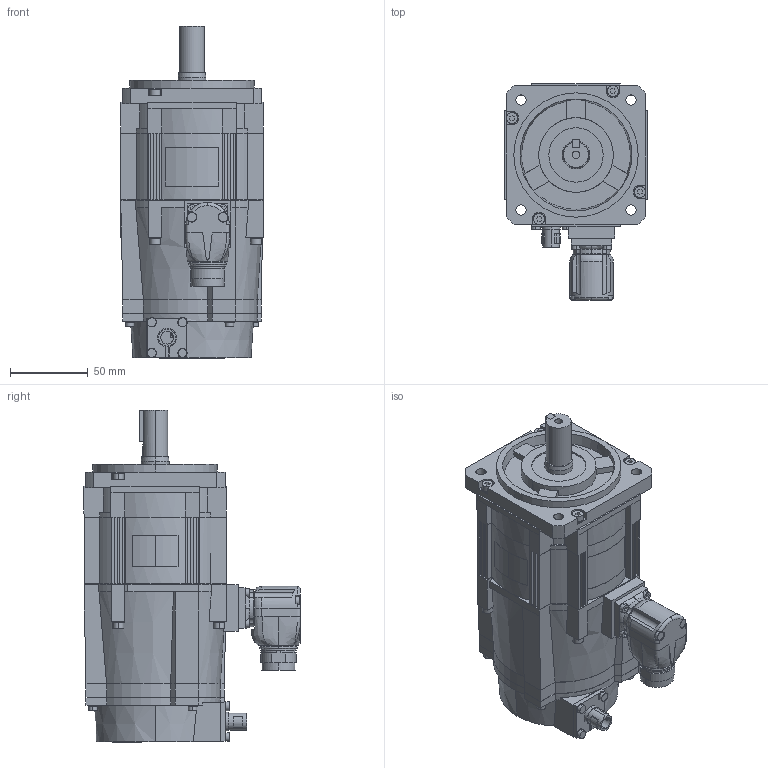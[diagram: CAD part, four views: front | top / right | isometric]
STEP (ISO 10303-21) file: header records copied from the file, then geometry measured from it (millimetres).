
FILE_DESCRIPTION (( 'STEP AP203' ), '1' );
FILE_NAME ('sgm7g_05d_f6h.STEP', '2016-03-16T07:48:41', ( '匠エンジニアリング山之内' ), ( 'TAKUMI-Engniaring' ), 'SwSTEP 2.0', 'SolidWorks 2006303', '' );
FILE_SCHEMA (( 'CONFIG_CONTROL_DESIGN' ));
Length unit declared in the file: millimetre
Products named in the file (4): sgm7g_05d_f6h_base; sgm7g_05d_f6h_key; sgm7g_05d_f6h; sgm7g_05d_f6h_connector
Assembly tree (3 placements, depth 2):
  sgm7g_05d_f6h
    sgm7g_05d_f6h_key
    sgm7g_05d_f6h_base
    sgm7g_05d_f6h_connector
Bounding box: 92 x 139.4 x 213.6 mm (x, y, z)
Volume: 1201067.2 mm3; surface area: 105450.9 mm2
Topology: 3 solids, 3 shells, 813 faces, 2078 edges, 1339 vertices
Faces by surface type: plane 546, cylinder 217, cone 21, bspline 20, torus 9
Entity records: 26209 total; most frequent: CARTESIAN_POINT 5905, ORIENTED_EDGE 4152, DIRECTION 4128, EDGE_CURVE 2076, AXIS2_PLACEMENT_3D 1381, VECTOR 1366, LINE 1366, VERTEX_POINT 1339
